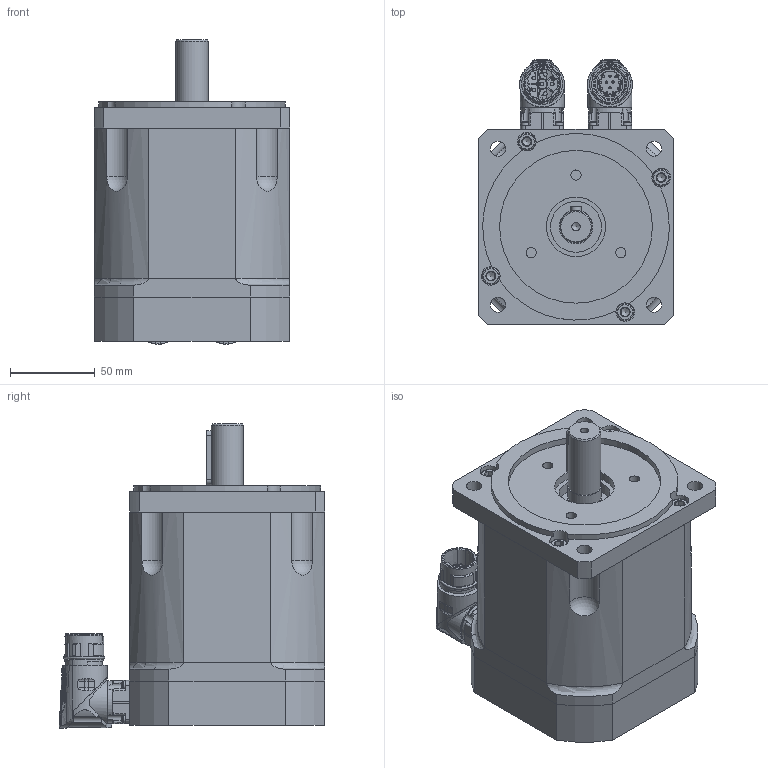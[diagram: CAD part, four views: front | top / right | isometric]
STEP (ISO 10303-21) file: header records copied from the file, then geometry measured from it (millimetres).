
FILE_DESCRIPTION(/* description */ (''),/* implementation_level */ '2;1');
FILE_NAME(/* name */ 'C:\Users\Public\Documents\Autodesk\Inventor LT 2014\Workspace\Motori Sito WEB\TG_COMPATTI\STEP_COMPATTI\DSM5_40_x197.stp',/* time_stamp */ '2021-03-27T12:03:02+01:00',/* author */ ('marcor'),/* organization */ (''),/* preprocessor_version */ 'ST-DEVELOPER v15.2',/* originating_system */ 'Autodesk Inventor LT ',/* authorisation */ '');
FILE_SCHEMA (('AUTOMOTIVE_DESIGN { 1 0 10303 214 3 1 1 }'));
Products named in the file (1): DSM5_40_x197
Bounding box: 115 x 156.5 x 179.41 mm (x, y, z)
Volume: 1705823.5 mm3; surface area: 193705.9 mm2
Topology: 16 solids, 30 shells, 1456 faces, 3815 edges, 2544 vertices
Faces by surface type: plane 528, cylinder 441, cone 283, bspline 113, torus 59, sphere 32
Full cylindrical faces by diameter (mm): 1.2 x12, 2.224 x8, 2.233 x6, 2.5 x8, 2.88 x8, 3.26 x8, 4.134 x4, 4.5 x2, 4.8 x8, 4.917 x13, 5 x4, 5.5 x7, 5.9 x2, 6 x11, 6.5 x8, 8.5 x4, 9 x4, 10 x12, 11 x8, 15.2 x1, 17.4 x3, 18 x1, 19 x2, 19.8 x1, 20 x2, 21.15 x4, 21.6 x1, 21.653 x2, 24.3 x2, 30 x1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
Entity records: 51928 total; most frequent: CARTESIAN_POINT 17802, ORIENTED_EDGE 6798, DIRECTION 6311, EDGE_CURVE 3399, AXIS2_PLACEMENT_3D 2560, VERTEX_POINT 2429, EDGE_LOOP 1946, ADVANCED_FACE 1456
